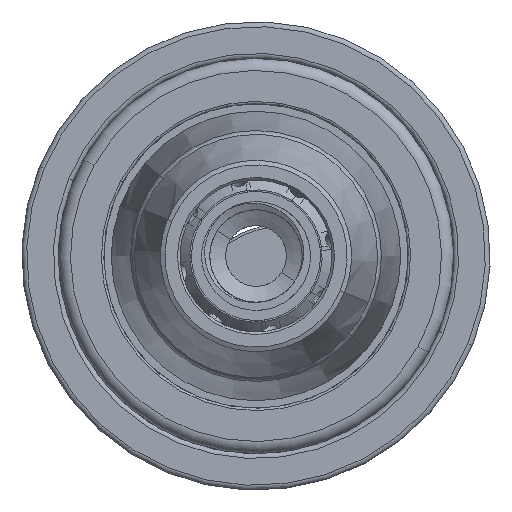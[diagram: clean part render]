
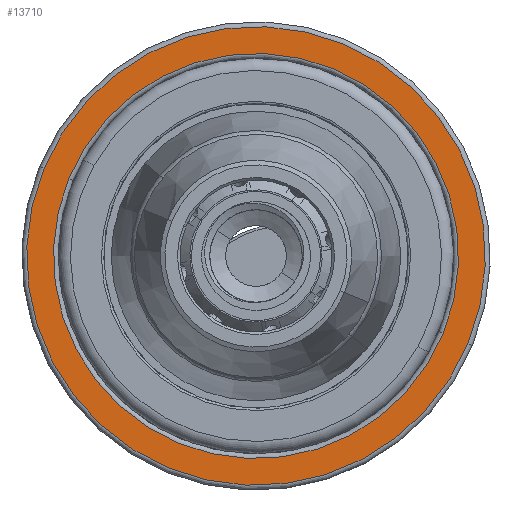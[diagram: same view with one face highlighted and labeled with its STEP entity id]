
A CAD part, left-side view. The second image highlights one B-rep face of the part: STEP entity #13710.
In plain terms, the highlighted planar face has unit normal (-1, 0, 0) as drawn and (0, -1, 0) by its records, which use the part's own axes.
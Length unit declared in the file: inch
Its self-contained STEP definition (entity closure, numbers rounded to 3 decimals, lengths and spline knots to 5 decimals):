
#1116 = DIRECTION ( 'NONE',  ( 0., 0., 1. ) ) ;
#1598 = VERTEX_POINT ( 'NONE', #11505 ) ;
#2464 = DIRECTION ( 'NONE',  ( 0., 0., 1. ) ) ;
#2466 = CIRCLE ( 'NONE', #34427, 0.9425 ) ;
#3508 = VERTEX_POINT ( 'NONE', #44098 ) ;
#3962 = VERTEX_POINT ( 'NONE', #22401 ) ;
#5850 = EDGE_LOOP ( 'NONE', ( #7066, #17339 ) ) ;
#7066 = ORIENTED_EDGE ( 'NONE', *, *, #34523, .T. ) ;
#7953 = AXIS2_PLACEMENT_3D ( 'NONE', #32292, #24570, #1116 ) ;
#7967 = AXIS2_PLACEMENT_3D ( 'NONE', #12983, #44393, #41217 ) ;
#9044 = CIRCLE ( 'NONE', #14874, 0.8325 ) ;
#9340 = CIRCLE ( 'NONE', #34077, 0.9425 ) ;
#10513 = EDGE_CURVE ( 'NONE', #3962, #31879, #9340, .T. ) ;
#11505 = CARTESIAN_POINT ( 'NONE',  ( 0., 0., 0.8325 ) ) ;
#12983 = CARTESIAN_POINT ( 'NONE',  ( 0., 0., 0. ) ) ;
#13683 = ORIENTED_EDGE ( 'NONE', *, *, #10513, .T. ) ;
#13710 = ADVANCED_FACE ( 'NONE', ( #17551, #20722 ), #34609, .F. ) ;
#14874 = AXIS2_PLACEMENT_3D ( 'NONE', #33190, #15676, #2464 ) ;
#15676 = DIRECTION ( 'NONE',  ( 0., 1., 0. ) ) ;
#16050 = CARTESIAN_POINT ( 'NONE',  ( 0., 0., 0. ) ) ;
#16323 = DIRECTION ( 'NONE',  ( 0., 0., 1. ) ) ;
#17339 = ORIENTED_EDGE ( 'NONE', *, *, #42537, .T. ) ;
#17551 = FACE_OUTER_BOUND ( 'NONE', #44231, .T. ) ;
#18692 = CARTESIAN_POINT ( 'NONE',  ( 0., 0., 0.9425 ) ) ;
#19733 = DIRECTION ( 'NONE',  ( 0., -1., 0. ) ) ;
#20722 = FACE_BOUND ( 'NONE', #5850, .T. ) ;
#22401 = CARTESIAN_POINT ( 'NONE',  ( 0., 0., -0.9425 ) ) ;
#24570 = DIRECTION ( 'NONE',  ( 0., 1., 0. ) ) ;
#27208 = DIRECTION ( 'NONE',  ( 0., 0., 1. ) ) ;
#28671 = EDGE_CURVE ( 'NONE', #31879, #3962, #2466, .T. ) ;
#30160 = DIRECTION ( 'NONE',  ( 0., -1., 0. ) ) ;
#30391 = ORIENTED_EDGE ( 'NONE', *, *, #28671, .T. ) ;
#31879 = VERTEX_POINT ( 'NONE', #18692 ) ;
#31921 = CIRCLE ( 'NONE', #7953, 0.8325 ) ;
#32292 = CARTESIAN_POINT ( 'NONE',  ( 0., 0., 0. ) ) ;
#33190 = CARTESIAN_POINT ( 'NONE',  ( 0., 0., 0. ) ) ;
#34077 = AXIS2_PLACEMENT_3D ( 'NONE', #16050, #30160, #27208 ) ;
#34427 = AXIS2_PLACEMENT_3D ( 'NONE', #40676, #19733, #16323 ) ;
#34523 = EDGE_CURVE ( 'NONE', #1598, #3508, #9044, .T. ) ;
#34609 = PLANE ( 'NONE',  #7967 ) ;
#40676 = CARTESIAN_POINT ( 'NONE',  ( 0., 0., 0. ) ) ;
#41217 = DIRECTION ( 'NONE',  ( 0., 0., 1. ) ) ;
#42537 = EDGE_CURVE ( 'NONE', #3508, #1598, #31921, .T. ) ;
#44098 = CARTESIAN_POINT ( 'NONE',  ( 0., 0., -0.8325 ) ) ;
#44231 = EDGE_LOOP ( 'NONE', ( #30391, #13683 ) ) ;
#44393 = DIRECTION ( 'NONE',  ( 0., 1., 0. ) ) ;
